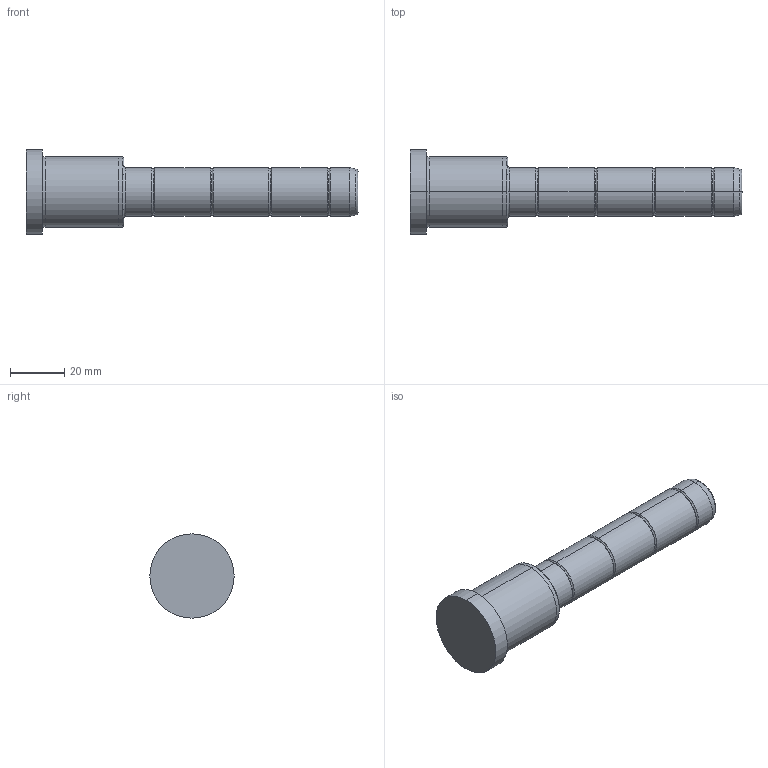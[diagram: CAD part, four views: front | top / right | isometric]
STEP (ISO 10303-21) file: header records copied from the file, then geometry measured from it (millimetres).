
FILE_DESCRIPTION( ( 'STEP AP203' ), '1' );
FILE_NAME( 'C:/Projects/D02 - 18x36x86.step', '2003-01-04T13:23:11', ( ' ' ), ( ' ' ), 'XStep 1.0', ' ', ' ' );
FILE_SCHEMA( ( 'CONFIG_CONTROL_DESIGN' ) );
Length unit declared in the file: metre
Products named in the file (1): 1
Bounding box: 122 x 31 x 31 mm (x, y, z)
Volume: 42197.3 mm3; surface area: 9433.9 mm2
Topology: 1 solids, 1 shells, 48 faces, 94 edges, 52 vertices
Faces by surface type: bspline 26, revolution 22
Entity records: 1523 total; most frequent: CARTESIAN_POINT 617, ORIENTED_EDGE 188, DIRECTION 150, EDGE_CURVE 94, AXIS2_PLACEMENT_3D 53, EDGE_LOOP 52, VERTEX_POINT 52, CIRCLE 52
